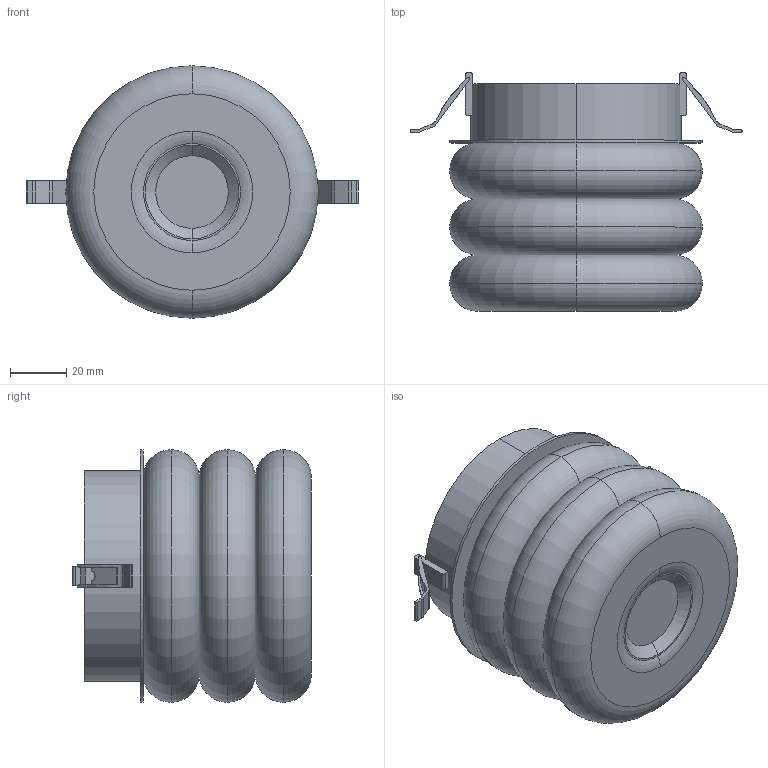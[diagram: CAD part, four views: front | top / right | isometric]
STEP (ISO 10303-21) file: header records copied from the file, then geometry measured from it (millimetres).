
FILE_DESCRIPTION (( 'STEP AP214' ), '1' );
FILE_NAME ('MART_3.STEP', '2026-02-06T16:22:37', ( '' ), ( '' ), 'SwSTEP 2.0', 'SolidWorks 2023', '' );
FILE_SCHEMA (( 'AUTOMOTIVE_DESIGN' ));
Length unit declared in the file: millimetre
Products named in the file (3): floron_empotrable; marmol Arq; MART_3
Assembly tree (4 placements, depth 2):
  MART_3
    floron_empotrable
    marmol Arq  x3
Bounding box: 118.33 x 85.1 x 90 mm (x, y, z)
Volume: 357104.1 mm3; surface area: 71695.2 mm2
Topology: 8 solids, 8 shells, 124 faces, 292 edges, 192 vertices
Faces by surface type: plane 64, cylinder 34, torus 18, cone 6, bspline 2
Entity records: 3188 total; most frequent: CARTESIAN_POINT 589, DIRECTION 542, ORIENTED_EDGE 496, EDGE_CURVE 248, AXIS2_PLACEMENT_3D 197, VERTEX_POINT 164, LINE 148, VECTOR 148
